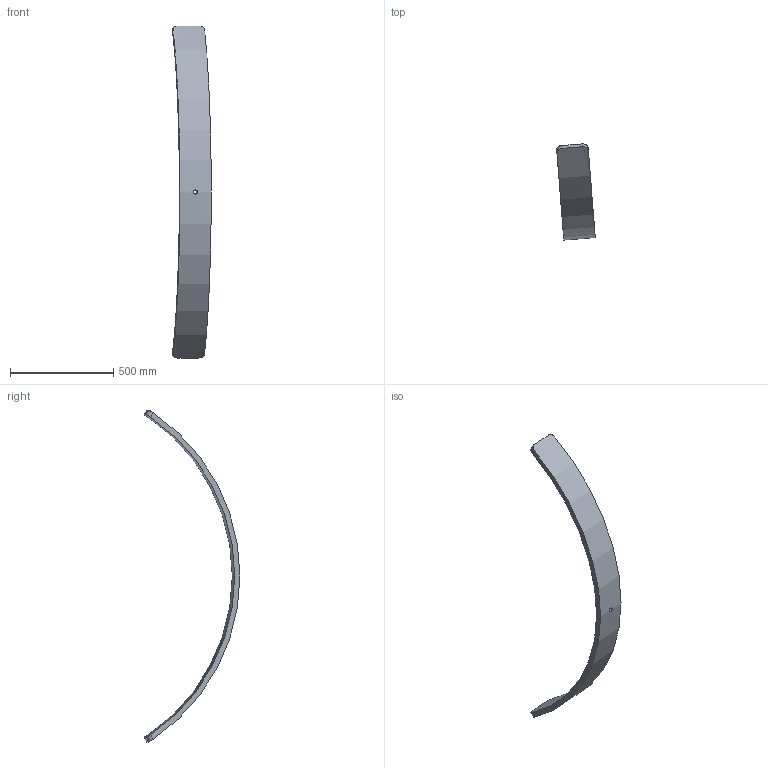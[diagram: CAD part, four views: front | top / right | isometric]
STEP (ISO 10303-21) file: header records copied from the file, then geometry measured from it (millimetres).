
FILE_DESCRIPTION (( 'STEP AP214' ), '1' );
FILE_NAME ('Section 13 AR.STEP', '2025-01-09T19:43:25', ( '' ), ( '' ), 'SwSTEP 2.0', 'SolidWorks 2024', '' );
FILE_SCHEMA (( 'AUTOMOTIVE_DESIGN' ));
Length unit declared in the file: inch
Products named in the file (1): Section 13 AR
Bounding box: 186.03 x 463.99 x 1605.72 mm (x, y, z)
Volume: 7282110.7 mm3; surface area: 677428.4 mm2
Topology: 1 solids, 1 shells, 11 faces, 27 edges, 18 vertices
Faces by surface type: cylinder 7, plane 4
Full cylindrical faces by diameter (mm): 19.447 x1
Entity records: 745 total; most frequent: CARTESIAN_POINT 470, ORIENTED_EDGE 52, DIRECTION 44, EDGE_CURVE 26, VERTEX_POINT 18, AXIS2_PLACEMENT_3D 16, EDGE_LOOP 14, LINE 12
